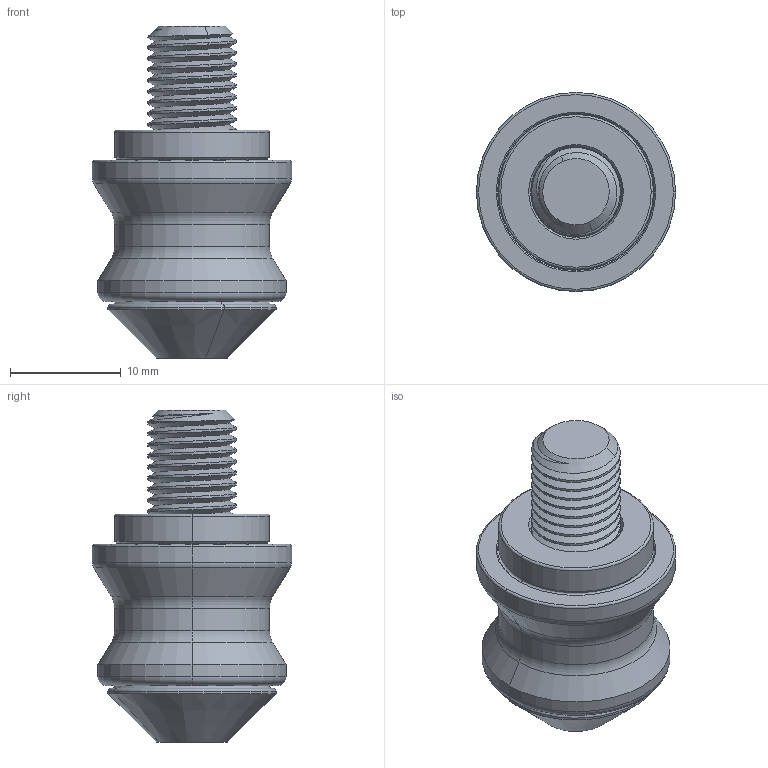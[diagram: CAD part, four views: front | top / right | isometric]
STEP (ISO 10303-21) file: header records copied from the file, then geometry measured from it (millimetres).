
FILE_DESCRIPTION (( 'STEP AP214' ), '1' );
FILE_NAME ('DWJT-5.STEP', '2021-11-11T04:01:21', ( '' ), ( '' ), 'SwSTEP 2.0', 'SolidWorks 2018', '' );
FILE_SCHEMA (( 'AUTOMOTIVE_DESIGN' ));
Length unit declared in the file: millimetre
Products named in the file (3): JGLS-5; DWJT-5; 嶺間
Assembly tree (2 placements, depth 2):
  DWJT-5
    嶺間
    JGLS-5
Bounding box: 18 x 18 x 30 mm (x, y, z)
Volume: 3709.6 mm3; surface area: 2866.1 mm2
Topology: 2 solids, 2 shells, 97 faces, 225 edges, 134 vertices
Faces by surface type: cylinder 40, cone 21, torus 20, plane 14, bspline 2
Entity records: 4899 total; most frequent: CARTESIAN_POINT 2107, DIRECTION 454, ORIENTED_EDGE 446, EDGE_CURVE 223, AXIS2_PLACEMENT_3D 186, VERTEX_POINT 134, EDGE_LOOP 103, ADVANCED_FACE 97
